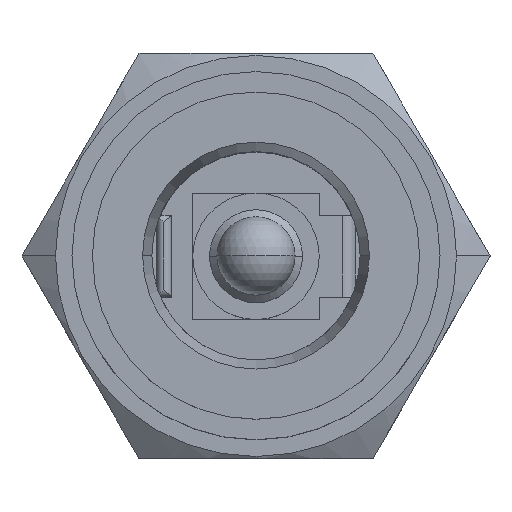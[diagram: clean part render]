
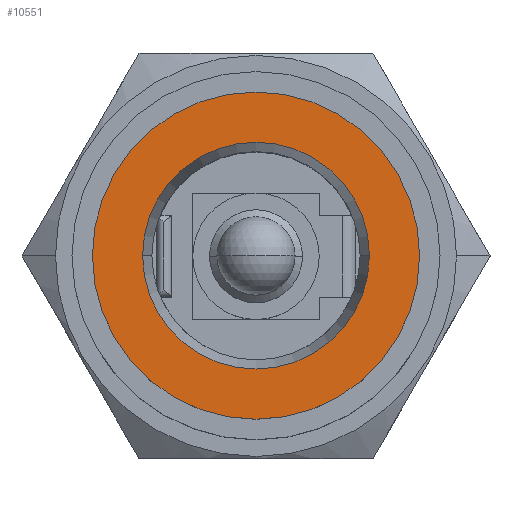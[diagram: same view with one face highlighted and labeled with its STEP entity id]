
A CAD part, top view. The second image highlights one B-rep face of the part: STEP entity #10551.
In plain terms, the highlighted planar face has unit normal (0, 0, 1).
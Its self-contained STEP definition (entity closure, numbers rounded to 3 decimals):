
#102 = AXIS2_PLACEMENT_3D ( 'NONE', #5741, #5623, #16716 ) ;
#170 = AXIS2_PLACEMENT_3D ( 'NONE', #2802, #4925, #7174 ) ;
#889 = AXIS2_PLACEMENT_3D ( 'NONE', #7860, #7734, #4148 ) ;
#1076 = FACE_OUTER_BOUND ( 'NONE', #19996, .T. ) ;
#1259 = VERTEX_POINT ( 'NONE', #22207 ) ;
#2735 = FACE_BOUND ( 'NONE', #16994, .T. ) ;
#2802 = CARTESIAN_POINT ( 'NONE',  ( 0., 0., 12.1 ) ) ;
#2845 = EDGE_CURVE ( 'NONE', #15541, #8908, #12669, .T. ) ;
#4148 = DIRECTION ( 'NONE',  ( 1., 0., 0. ) ) ;
#4323 = ORIENTED_EDGE ( 'NONE', *, *, #17652, .T. ) ;
#4516 = CARTESIAN_POINT ( 'NONE',  ( 0., 0., 12.1 ) ) ;
#4925 = DIRECTION ( 'NONE',  ( 0., 0., 1. ) ) ;
#5334 = CARTESIAN_POINT ( 'NONE',  ( -4.4, 0., 12.1 ) ) ;
#5623 = DIRECTION ( 'NONE',  ( 0., 0., -1. ) ) ;
#5670 = VERTEX_POINT ( 'NONE', #5334 ) ;
#5741 = CARTESIAN_POINT ( 'NONE',  ( 0., 0., 12.1 ) ) ;
#5919 = EDGE_CURVE ( 'NONE', #8908, #15541, #22186, .T. ) ;
#6693 = CIRCLE ( 'NONE', #16213, 4.4 ) ;
#7174 = DIRECTION ( 'NONE',  ( 1., 0., 0. ) ) ;
#7734 = DIRECTION ( 'NONE',  ( 0., 0., -1. ) ) ;
#7860 = CARTESIAN_POINT ( 'NONE',  ( 0., 0., 12.1 ) ) ;
#8236 = CARTESIAN_POINT ( 'NONE',  ( -3.05, 0., 12.1 ) ) ;
#8513 = ORIENTED_EDGE ( 'NONE', *, *, #2845, .T. ) ;
#8736 = CARTESIAN_POINT ( 'NONE',  ( 3.05, 0., 12.1 ) ) ;
#8908 = VERTEX_POINT ( 'NONE', #8736 ) ;
#9840 = ORIENTED_EDGE ( 'NONE', *, *, #5919, .T. ) ;
#10010 = DIRECTION ( 'NONE',  ( 0., 0., 1. ) ) ;
#10439 = CIRCLE ( 'NONE', #170, 4.4 ) ;
#10551 = ADVANCED_FACE ( 'NONE', ( #2735, #1076 ), #12269, .T. ) ;
#11852 = CARTESIAN_POINT ( 'NONE',  ( 0., 0., 12.1 ) ) ;
#12269 = PLANE ( 'NONE',  #17669 ) ;
#12669 = CIRCLE ( 'NONE', #102, 3.05 ) ;
#13036 = EDGE_CURVE ( 'NONE', #5670, #1259, #10439, .T. ) ;
#15060 = DIRECTION ( 'NONE',  ( 1., 0., 0. ) ) ;
#15541 = VERTEX_POINT ( 'NONE', #8236 ) ;
#16213 = AXIS2_PLACEMENT_3D ( 'NONE', #11852, #16968, #15060 ) ;
#16716 = DIRECTION ( 'NONE',  ( 1., 0., 0. ) ) ;
#16968 = DIRECTION ( 'NONE',  ( 0., 0., 1. ) ) ;
#16994 = EDGE_LOOP ( 'NONE', ( #9840, #8513 ) ) ;
#17652 = EDGE_CURVE ( 'NONE', #1259, #5670, #6693, .T. ) ;
#17669 = AXIS2_PLACEMENT_3D ( 'NONE', #4516, #10010, #22865 ) ;
#17815 = ORIENTED_EDGE ( 'NONE', *, *, #13036, .T. ) ;
#19996 = EDGE_LOOP ( 'NONE', ( #17815, #4323 ) ) ;
#22186 = CIRCLE ( 'NONE', #889, 3.05 ) ;
#22207 = CARTESIAN_POINT ( 'NONE',  ( 4.4, 0., 12.1 ) ) ;
#22865 = DIRECTION ( 'NONE',  ( 1., 0., 0. ) ) ;
